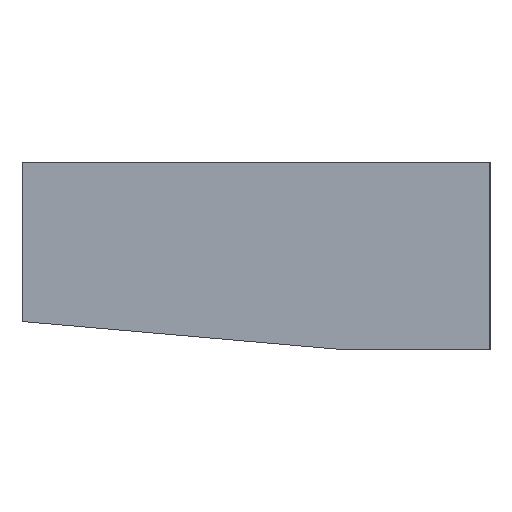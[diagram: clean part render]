
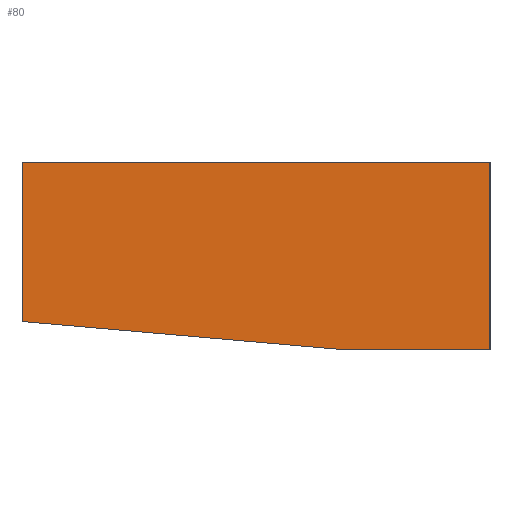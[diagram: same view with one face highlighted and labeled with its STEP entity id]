
A CAD part, left-side view. The second image highlights one B-rep face of the part: STEP entity #80.
In plain terms, the highlighted planar face has unit normal (-1, 0, 0).
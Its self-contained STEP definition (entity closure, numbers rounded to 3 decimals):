
#80=ADVANCED_FACE('',(#326),#328,.T.);
#326=FACE_BOUND('',#327,.T.);
#327=EDGE_LOOP('',(#556,#557,#558,#559,#560));
#328=PLANE('',#329);
#329=AXIS2_PLACEMENT_3D('',#330,#331,#332);
#330=CARTESIAN_POINT('',(-541.,25.,0.));
#331=DIRECTION('',(-1.,0.,0.));
#332=DIRECTION('',(0.,-1.,0.));
#556=ORIENTED_EDGE('',*,*,#626,.T.);
#557=ORIENTED_EDGE('',*,*,#618,.T.);
#558=ORIENTED_EDGE('',*,*,#627,.T.);
#559=ORIENTED_EDGE('',*,*,#628,.F.);
#560=ORIENTED_EDGE('',*,*,#620,.F.);
#618=EDGE_CURVE('',#651,#656,#658,.T.);
#620=EDGE_CURVE('',#660,#662,#663,.T.);
#626=EDGE_CURVE('',#660,#651,#671,.F.);
#627=EDGE_CURVE('',#656,#672,#673,.T.);
#628=EDGE_CURVE('',#662,#672,#674,.T.);
#651=VERTEX_POINT('',#718);
#656=VERTEX_POINT('',#727);
#658=LINE('',#731,#732);
#660=VERTEX_POINT('',#735);
#662=VERTEX_POINT('',#739);
#663=LINE('',#740,#741);
#671=LINE('',#760,#761);
#672=VERTEX_POINT('',#763);
#673=LINE('',#764,#765);
#674=LINE('',#767,#768);
#718=CARTESIAN_POINT('',(-541.,7.855,0.));
#727=CARTESIAN_POINT('',(-541.,0.,0.));
#731=CARTESIAN_POINT('',(-541.,7.855,0.));
#732=VECTOR('',#733,1.);
#733=DIRECTION('',(0.,-1.,0.));
#735=CARTESIAN_POINT('',(-541.,25.,1.5));
#739=CARTESIAN_POINT('',(-541.,25.,10.));
#740=CARTESIAN_POINT('',(-541.,25.,1.5));
#741=VECTOR('',#742,1.);
#742=DIRECTION('',(0.,0.,1.));
#760=CARTESIAN_POINT('',(-541.,7.855,0.));
#761=VECTOR('',#762,1.);
#762=DIRECTION('',(0.,0.996,0.087));
#763=CARTESIAN_POINT('',(-541.,0.,10.));
#764=CARTESIAN_POINT('',(-541.,0.,0.));
#765=VECTOR('',#766,1.);
#766=DIRECTION('',(0.,0.,1.));
#767=CARTESIAN_POINT('',(-541.,25.,10.));
#768=VECTOR('',#769,1.);
#769=DIRECTION('',(0.,-1.,0.));
